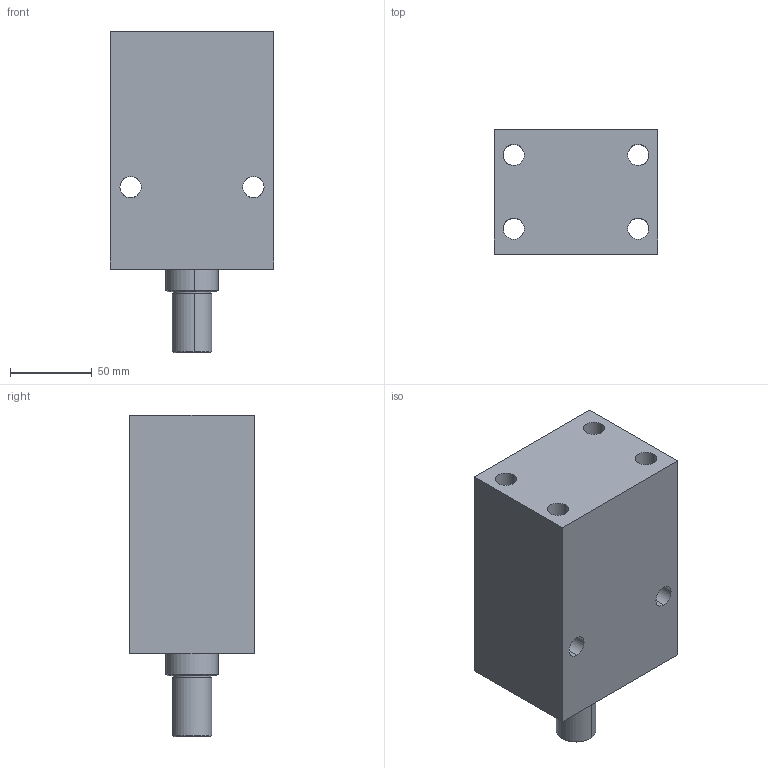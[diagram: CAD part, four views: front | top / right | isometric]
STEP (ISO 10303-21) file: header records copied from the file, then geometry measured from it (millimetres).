
FILE_DESCRIPTION (( 'STEP AP203' ), '1' );
FILE_NAME ('Block cylinder B01C-475M.STEP', '2022-07-09T18:13:31', ( '' ), ( '' ), 'SwSTEP 2.0', 'SolidWorks 2017', '' );
FILE_SCHEMA (( 'CONFIG_CONTROL_DESIGN' ));
Length unit declared in the file: millimetre
Products named in the file (3): Block cylinder B01C-475M; Body_475M_50ST; Piston_475M_50sT
Assembly tree (2 placements, depth 2):
  Block cylinder B01C-475M
    Body_475M_50ST
    Piston_475M_50sT
Bounding box: 100 x 76 x 196 mm (x, y, z)
Volume: 1090723.2 mm3; surface area: 113685.1 mm2
Topology: 2 solids, 2 shells, 333 faces, 925 edges, 612 vertices
Faces by surface type: plane 158, bspline 133, cylinder 34, cone 8
Entity records: 16990 total; most frequent: CARTESIAN_POINT 9044, ORIENTED_EDGE 1842, DIRECTION 1105, EDGE_CURVE 921, VERTEX_POINT 612, LINE 567, VECTOR 567, EDGE_LOOP 373
